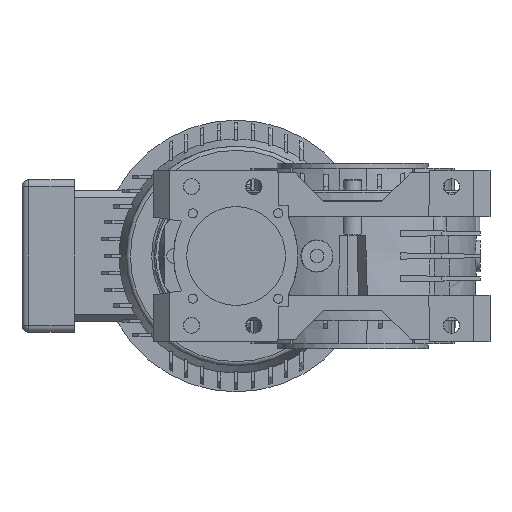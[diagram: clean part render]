
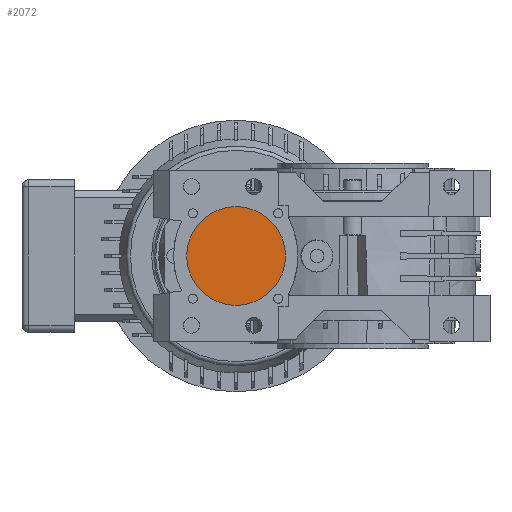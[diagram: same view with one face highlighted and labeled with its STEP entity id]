
A CAD part, left-side view. The second image highlights one B-rep face of the part: STEP entity #2072.
In plain terms, the highlighted planar face has unit normal (-1, 0, 0).
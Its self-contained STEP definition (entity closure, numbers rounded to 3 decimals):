
#2072 = ADVANCED_FACE( '', ( #5511 ), #5512, .T. );
#5511 = FACE_OUTER_BOUND( '', #10642, .T. );
#5512 = PLANE( '', #10643 );
#10642 = EDGE_LOOP( '', ( #16901 ) );
#10643 = AXIS2_PLACEMENT_3D( '', #16902, #16903, #16904 );
#16901 = ORIENTED_EDGE( '', *, *, #30763, .T. );
#16902 = CARTESIAN_POINT( '', ( -99., 85., 0. ) );
#16903 = DIRECTION( '', ( -1., 0., 0. ) );
#16904 = DIRECTION( '', ( 0., 1., 0. ) );
#30763 = EDGE_CURVE( '', #37037, #37037, #37038, .T. );
#37037 = VERTEX_POINT( '', #46186 );
#37038 = CIRCLE( '', #46187, 36. );
#46186 = CARTESIAN_POINT( '', ( -99., 85., 36. ) );
#46187 = AXIS2_PLACEMENT_3D( '', #57562, #57563, #57564 );
#57562 = CARTESIAN_POINT( '', ( -99., 85., 0. ) );
#57563 = DIRECTION( '', ( -1., 0., 0. ) );
#57564 = DIRECTION( '', ( 0., 0., 1. ) );
